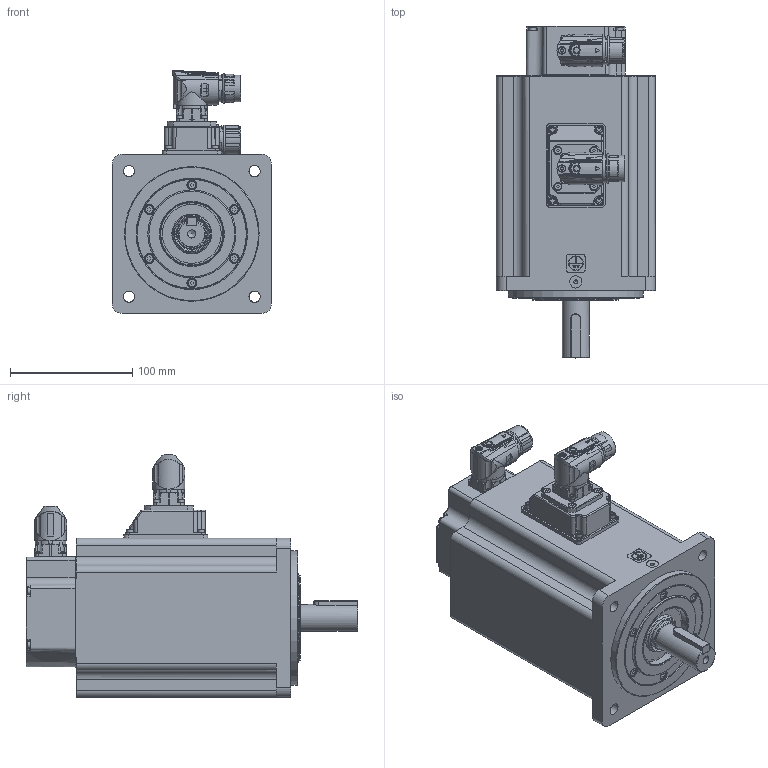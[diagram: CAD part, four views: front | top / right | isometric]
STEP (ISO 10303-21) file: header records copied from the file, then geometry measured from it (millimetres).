
FILE_DESCRIPTION( ( 'Unknown' ), '1' );
FILE_NAME( 'U:/05_Progetto TCE/010-TCE motor drawings/TCE130/Vuoti/TCE130 5H XX 3 A2 1 C2.stp', 'Unknown', ( 'Unknown' ), ( 'Unknown' ), 'PSStep 17.0.49', 'Unknown', ' ' );
FILE_SCHEMA( ( 'AUTOMOTIVE_DESIGN { 1 0 10303 214 1 1 1 1 }' ) );
Length unit declared in the file: millimetre
Products named in the file (13): 003103001510
Bounding box: 130.3 x 271 x 198.5 mm (x, y, z)
Volume: 1225518.2 mm3; surface area: 361225.6 mm2
Topology: 13 solids, 90 shells, 2972 faces, 7416 edges, 4781 vertices
Faces by surface type: plane 1441, cylinder 724, cone 297, bspline 230, torus 161, sphere 81, extrusion 38
Full cylindrical faces by diameter (mm): 0.5 x1, 1 x21, 1.2 x17, 1.4 x4, 2 x4, 2.013 x4, 2.2 x2, 2.459 x24, 2.5 x10, 2.6 x4, 2.8 x4, 3 x28, 3.242 x30, 3.5 x8, 4 x15, 4.134 x8, 4.4 x4, 4.5 x8, 4.7 x4, 5 x8, 5.5 x18, 5.8 x1, 5.9 x2, 6.647 x2, 6.8 x1, 7 x10, 8 x15, 8.5 x8, 10 x1, 10.5 x8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
Entity records: 122972 total; most frequent: CARTESIAN_POINT 37818, DIRECTION 13064, ORIENTED_EDGE 12696, EDGE_CURVE 6348, AXIS2_PLACEMENT_3D 4912, VERTEX_POINT 4504, EDGE_LOOP 3957, FACE_OUTER_BOUND 3440
